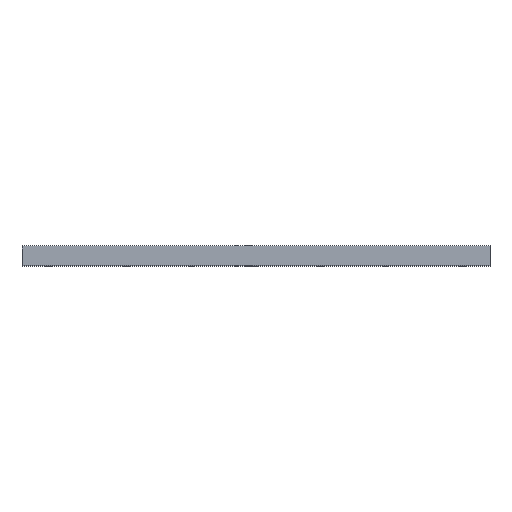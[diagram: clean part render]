
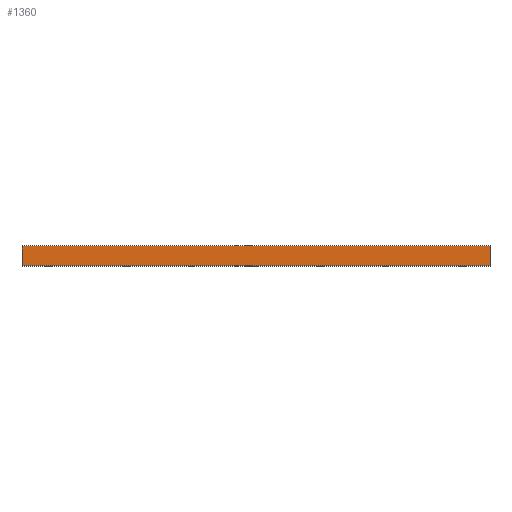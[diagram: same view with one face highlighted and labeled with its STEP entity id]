
A CAD part, top view. The second image highlights one B-rep face of the part: STEP entity #1360.
In plain terms, the highlighted planar face has unit normal (0, 0, 1).
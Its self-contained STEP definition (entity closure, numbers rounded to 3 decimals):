
#29 = DIRECTION ( 'NONE',  ( -1., 0., 0. ) ) ;
#30 = CARTESIAN_POINT ( 'NONE',  ( 215.5, 7., 80. ) ) ;
#60 = CARTESIAN_POINT ( 'NONE',  ( 215.5, 7., 80. ) ) ;
#89 = CARTESIAN_POINT ( 'NONE',  ( 0., 7., 80. ) ) ;
#93 = CARTESIAN_POINT ( 'NONE',  ( 0., -2., 80. ) ) ;
#156 = CARTESIAN_POINT ( 'NONE',  ( 215.5, -2., 80. ) ) ;
#166 = VERTEX_POINT ( 'NONE', #156 ) ;
#229 = VERTEX_POINT ( 'NONE', #93 ) ;
#233 = VERTEX_POINT ( 'NONE', #89 ) ;
#262 = VERTEX_POINT ( 'NONE', #60 ) ;
#271 = CARTESIAN_POINT ( 'NONE',  ( 215.5, 7., 80. ) ) ;
#290 = DIRECTION ( 'NONE',  ( 0., -1., 0. ) ) ;
#469 = DIRECTION ( 'NONE',  ( -1., 0., 0. ) ) ;
#471 = CARTESIAN_POINT ( 'NONE',  ( 215.5, -2., 80. ) ) ;
#560 = EDGE_CURVE ( 'NONE', #262, #233, #930, .T. ) ;
#589 = EDGE_CURVE ( 'NONE', #262, #166, #892, .T. ) ;
#652 = EDGE_CURVE ( 'NONE', #166, #229, #1254, .T. ) ;
#731 = AXIS2_PLACEMENT_3D ( 'NONE', #1713, #1712, #1711 ) ;
#858 = EDGE_CURVE ( 'NONE', #233, #229, #1157, .T. ) ;
#892 = LINE ( 'NONE', #271, #1967 ) ;
#928 = VECTOR ( 'NONE', #29, 1000. ) ;
#930 = LINE ( 'NONE', #30, #928 ) ;
#1105 = FACE_OUTER_BOUND ( 'NONE', #2015, .T. ) ;
#1155 = VECTOR ( 'NONE', #1537, 1000. ) ;
#1157 = LINE ( 'NONE', #1551, #1155 ) ;
#1254 = LINE ( 'NONE', #471, #1258 ) ;
#1258 = VECTOR ( 'NONE', #469, 1000. ) ;
#1360 = ADVANCED_FACE ( 'NONE', ( #1105 ), #1714, .F. ) ;
#1404 = ORIENTED_EDGE ( 'NONE', *, *, #858, .T. ) ;
#1429 = ORIENTED_EDGE ( 'NONE', *, *, #589, .F. ) ;
#1432 = ORIENTED_EDGE ( 'NONE', *, *, #560, .T. ) ;
#1437 = ORIENTED_EDGE ( 'NONE', *, *, #652, .F. ) ;
#1537 = DIRECTION ( 'NONE',  ( 0., -1., 0. ) ) ;
#1551 = CARTESIAN_POINT ( 'NONE',  ( 0., 7., 80. ) ) ;
#1711 = DIRECTION ( 'NONE',  ( -1., 0., 0. ) ) ;
#1712 = DIRECTION ( 'NONE',  ( 0., 0., -1. ) ) ;
#1713 = CARTESIAN_POINT ( 'NONE',  ( 215.5, 7., 80. ) ) ;
#1714 = PLANE ( 'NONE',  #731 ) ;
#1967 = VECTOR ( 'NONE', #290, 1000. ) ;
#2015 = EDGE_LOOP ( 'NONE', ( #1404, #1437, #1429, #1432 ) ) ;
